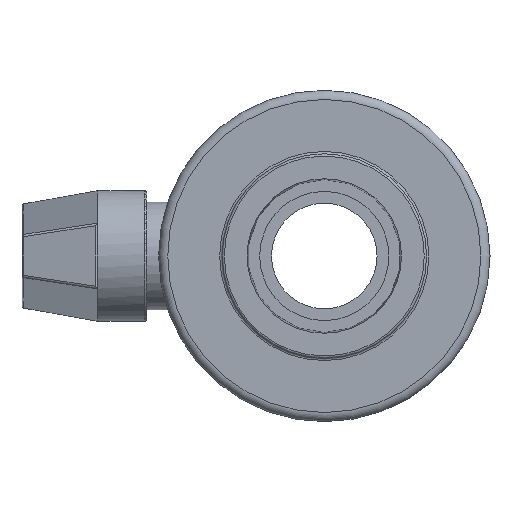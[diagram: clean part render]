
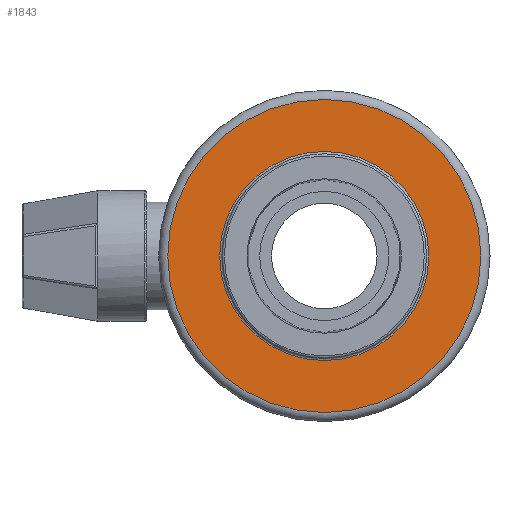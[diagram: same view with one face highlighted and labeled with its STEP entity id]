
A CAD part, left-side view. The second image highlights one B-rep face of the part: STEP entity #1843.
In plain terms, the highlighted planar face has unit normal (-1, 0, 0).
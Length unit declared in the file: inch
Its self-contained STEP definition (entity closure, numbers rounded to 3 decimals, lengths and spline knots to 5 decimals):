
#95 = DIRECTION ( 'NONE',  ( 1., 0., 0. ) ) ;
#327 = AXIS2_PLACEMENT_3D ( 'NONE', #2092, #363, #1148 ) ;
#333 = AXIS2_PLACEMENT_3D ( 'NONE', #2234, #1464, #1234 ) ;
#363 = DIRECTION ( 'NONE',  ( 1., 0., 0. ) ) ;
#373 = ORIENTED_EDGE ( 'NONE', *, *, #1944, .T. ) ;
#439 = EDGE_LOOP ( 'NONE', ( #1212 ) ) ;
#458 = CIRCLE ( 'NONE', #333, 1.34313 ) ;
#536 = CARTESIAN_POINT ( 'NONE',  ( -1.83125, 0.8775, 0. ) ) ;
#804 = EDGE_LOOP ( 'NONE', ( #373 ) ) ;
#1108 = VERTEX_POINT ( 'NONE', #1900 ) ;
#1148 = DIRECTION ( 'NONE',  ( 0., 0., -1. ) ) ;
#1192 = CIRCLE ( 'NONE', #327, 0.89719 ) ;
#1198 = AXIS2_PLACEMENT_3D ( 'NONE', #536, #95, #2447 ) ;
#1212 = ORIENTED_EDGE ( 'NONE', *, *, #1240, .T. ) ;
#1234 = DIRECTION ( 'NONE',  ( 0., 0., -1. ) ) ;
#1240 = EDGE_CURVE ( 'NONE', #1108, #1108, #1192, .T. ) ;
#1464 = DIRECTION ( 'NONE',  ( -1., 0., 0. ) ) ;
#1699 = FACE_BOUND ( 'NONE', #439, .T. ) ;
#1843 = ADVANCED_FACE ( 'NONE', ( #1898, #1699 ), #1938, .F. ) ;
#1898 = FACE_OUTER_BOUND ( 'NONE', #804, .T. ) ;
#1900 = CARTESIAN_POINT ( 'NONE',  ( -1.83125, 0., -0.89719 ) ) ;
#1938 = PLANE ( 'NONE',  #1198 ) ;
#1944 = EDGE_CURVE ( 'NONE', #2080, #2080, #458, .T. ) ;
#2080 = VERTEX_POINT ( 'NONE', #2465 ) ;
#2092 = CARTESIAN_POINT ( 'NONE',  ( -1.83125, 0., 0. ) ) ;
#2234 = CARTESIAN_POINT ( 'NONE',  ( -1.83125, 0., 0. ) ) ;
#2447 = DIRECTION ( 'NONE',  ( 0., 0., -1. ) ) ;
#2465 = CARTESIAN_POINT ( 'NONE',  ( -1.83125, 0., -1.34313 ) ) ;
